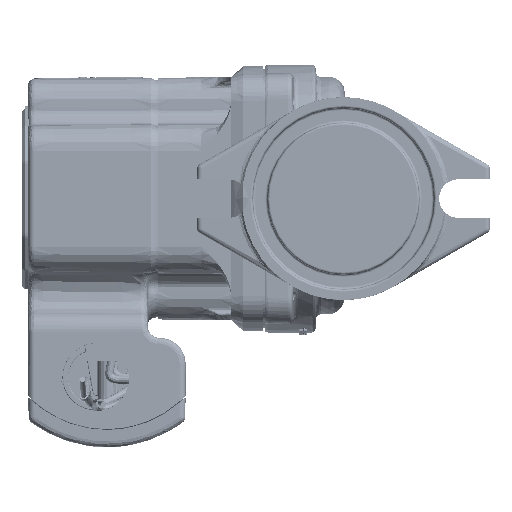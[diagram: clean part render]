
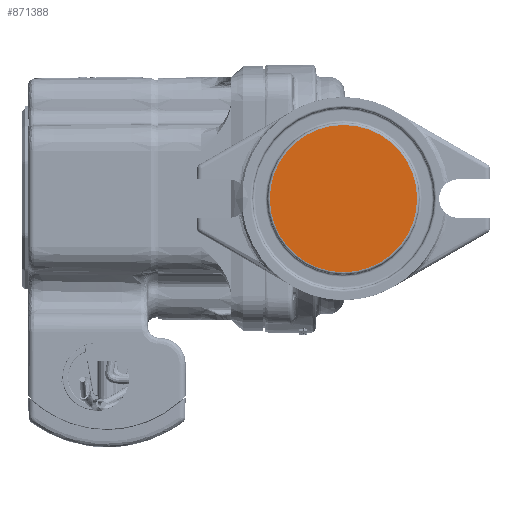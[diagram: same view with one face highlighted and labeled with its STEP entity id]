
A CAD part, left-side view. The second image highlights one B-rep face of the part: STEP entity #871388.
In plain terms, the highlighted planar face has unit normal (-1, 0, 0) as drawn and (0, 0, 1) by its records, which use the part's own axes.
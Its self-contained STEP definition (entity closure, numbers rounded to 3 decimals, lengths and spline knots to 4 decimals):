
#42433 = EDGE_CURVE ( 'NONE', #293253, #447252, #271240, .T. ) ;
#43946 = CARTESIAN_POINT ( 'NONE',  ( 0.9525, 1.0039, 3.165 ) ) ;
#75149 = DIRECTION ( 'NONE',  ( -1., 0., 0. ) ) ;
#97658 = AXIS2_PLACEMENT_3D ( 'NONE', #711188, #209144, #75149 ) ;
#138386 = PLANE ( 'NONE',  #255430 ) ;
#165807 = EDGE_CURVE ( 'NONE', #447252, #293253, #769099, .T. ) ;
#209144 = DIRECTION ( 'NONE',  ( 0., 0., 1. ) ) ;
#255430 = AXIS2_PLACEMENT_3D ( 'NONE', #587504, #740242, #730850 ) ;
#262357 = EDGE_LOOP ( 'NONE', ( #275637, #812989 ) ) ;
#271240 = CIRCLE ( 'NONE', #561341, 0.9525 ) ;
#275637 = ORIENTED_EDGE ( 'NONE', *, *, #42433, .T. ) ;
#293253 = VERTEX_POINT ( 'NONE', #848219 ) ;
#439773 = DIRECTION ( 'NONE',  ( -1., 0., 0. ) ) ;
#447252 = VERTEX_POINT ( 'NONE', #43946 ) ;
#506839 = CARTESIAN_POINT ( 'NONE',  ( 0., 1.0039, 3.165 ) ) ;
#561341 = AXIS2_PLACEMENT_3D ( 'NONE', #506839, #784138, #439773 ) ;
#587504 = CARTESIAN_POINT ( 'NONE',  ( 0., 3.0781, 3.165 ) ) ;
#711188 = CARTESIAN_POINT ( 'NONE',  ( 0., 1.0039, 3.165 ) ) ;
#730850 = DIRECTION ( 'NONE',  ( -1., 0., 0. ) ) ;
#740242 = DIRECTION ( 'NONE',  ( 0., 0., -1. ) ) ;
#769099 = CIRCLE ( 'NONE', #97658, 0.9525 ) ;
#784138 = DIRECTION ( 'NONE',  ( 0., 0., 1. ) ) ;
#797786 = FACE_OUTER_BOUND ( 'NONE', #262357, .T. ) ;
#812989 = ORIENTED_EDGE ( 'NONE', *, *, #165807, .T. ) ;
#848219 = CARTESIAN_POINT ( 'NONE',  ( -0.9525, 1.0039, 3.165 ) ) ;
#871388 = ADVANCED_FACE ( 'NONE', ( #797786 ), #138386, .F. ) ;
